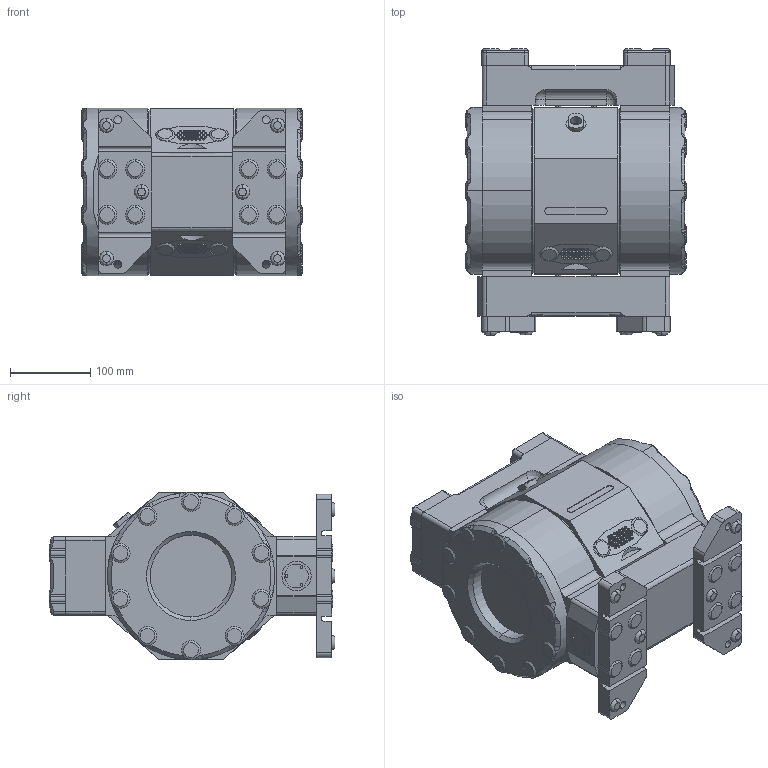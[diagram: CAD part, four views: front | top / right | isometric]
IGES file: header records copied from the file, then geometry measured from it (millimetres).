
Start section: SolidWorks IGES file using analytic representation for surfaces
Global section: file name: \\server\Users\Karen.Bodily\My Documents\PSD16_solid_model.IGS; native system: SolidWorks 2012; preprocessor: SolidWorks 2012; author: karen.bodily; date: 130516.160505; units: inch
Bounding box: 275.72 x 356.92 x 208.79 mm (x, y, z)
Volume: 12253749.5 mm3; surface area: 506846.8 mm2
Topology: 1 solids, 1 shells, 1003 faces, 2372 edges, 1536 vertices
Faces by surface type: revolution 642, plane 357, bspline 4
